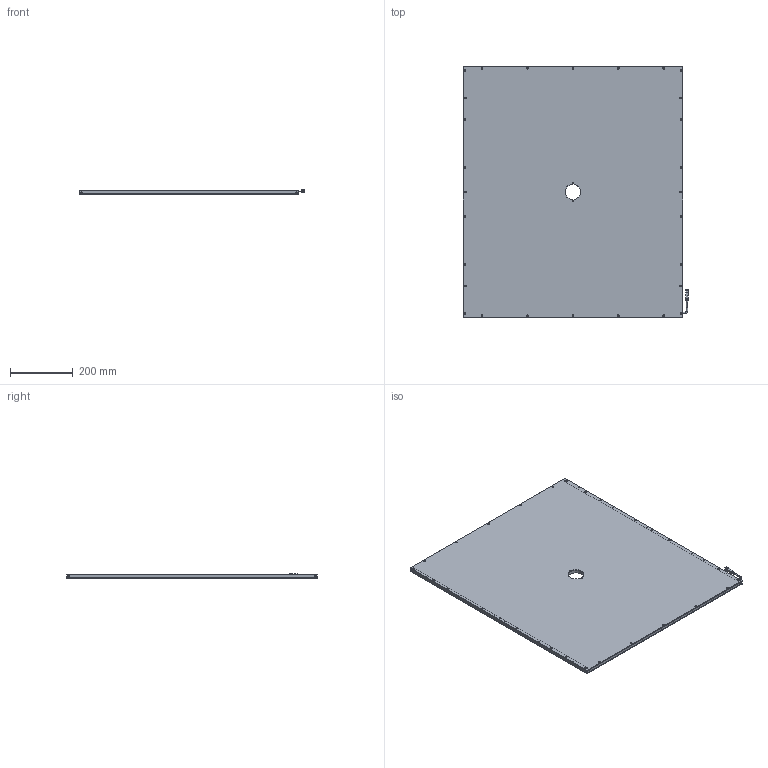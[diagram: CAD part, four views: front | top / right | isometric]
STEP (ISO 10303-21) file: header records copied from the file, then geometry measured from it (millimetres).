
FILE_DESCRIPTION (( 'STEP AP203' ), '1' );
FILE_NAME ('CRT-KFLC760660Y50-¼òÒ×3DÍ¼.STEP', '2021-11-30T06:07:53', ( 'Admin' ), ( '' ), 'SwSTEP 2.0', 'SolidWorks 2018', '' );
FILE_SCHEMA (( 'CONFIG_CONTROL_DESIGN' ));
Length unit declared in the file: millimetre
Products named in the file (1): CRT-KFLC760660Y50-潠眢3D芞
Bounding box: 719.45 x 800 x 14.85 mm (x, y, z)
Surface area: 1764010.2 mm2 (no closed solid volume)
Topology: 0 solids, 27 shells, 250 faces, 954 edges, 713 vertices
Faces by surface type: cylinder 109, plane 88, cone 50, bspline 3
Entity records: 10649 total; most frequent: CARTESIAN_POINT 2334, DIRECTION 1804, ORIENTED_EDGE 1415, EDGE_CURVE 954, VERTEX_POINT 713, AXIS2_PLACEMENT_3D 640, LINE 524, VECTOR 524
